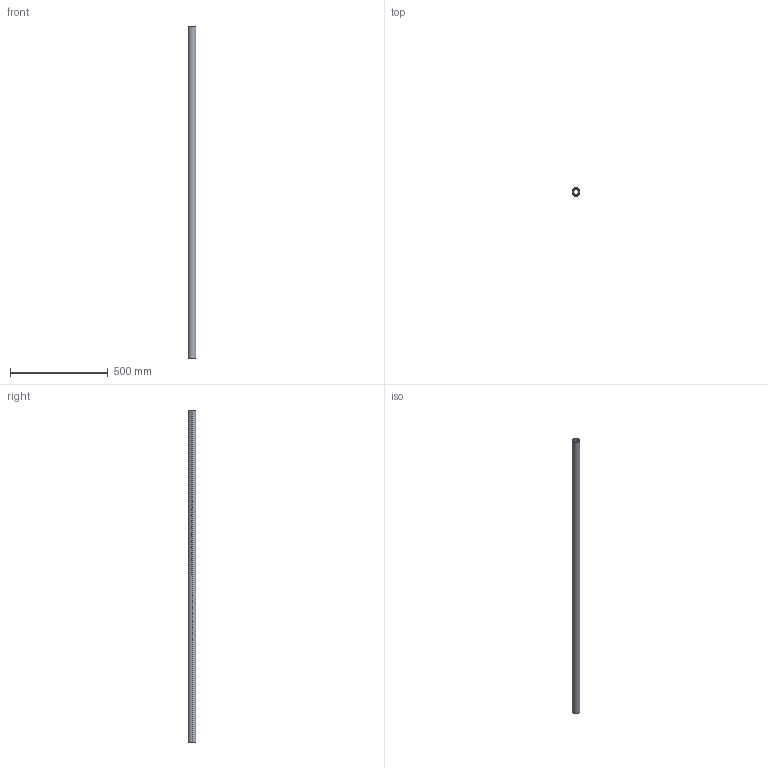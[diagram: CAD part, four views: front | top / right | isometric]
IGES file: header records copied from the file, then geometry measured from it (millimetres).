
Start section: SolidWorks IGES file using analytic representation for surfaces
Global section: file name: C:\Users\IanO\Desktop\L1771_v2\L1771.40_v2\L1771.40_v2_20230705_IGES\L1771.40-1700.igs; native system: SolidWorks 2019; preprocessor: SolidWorks 2019; author: IanO; date: 230705.160755; units: millimetre
Bounding box: 40 x 40 x 1700 mm (x, y, z)
Surface area: 364449.9 mm2 (no closed solid volume)
Topology: 0 solids, 0 shells, 6 faces, 272 edges, 272 vertices
Faces by surface type: revolution 4, bspline 2
